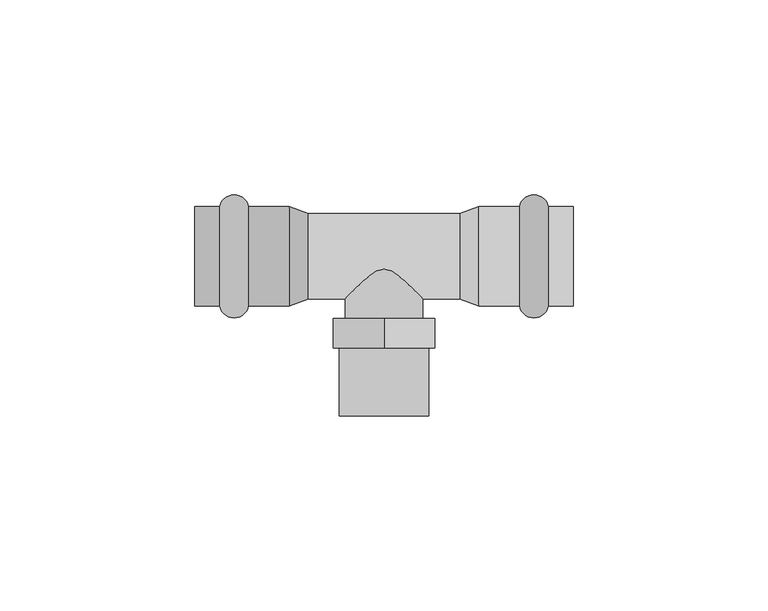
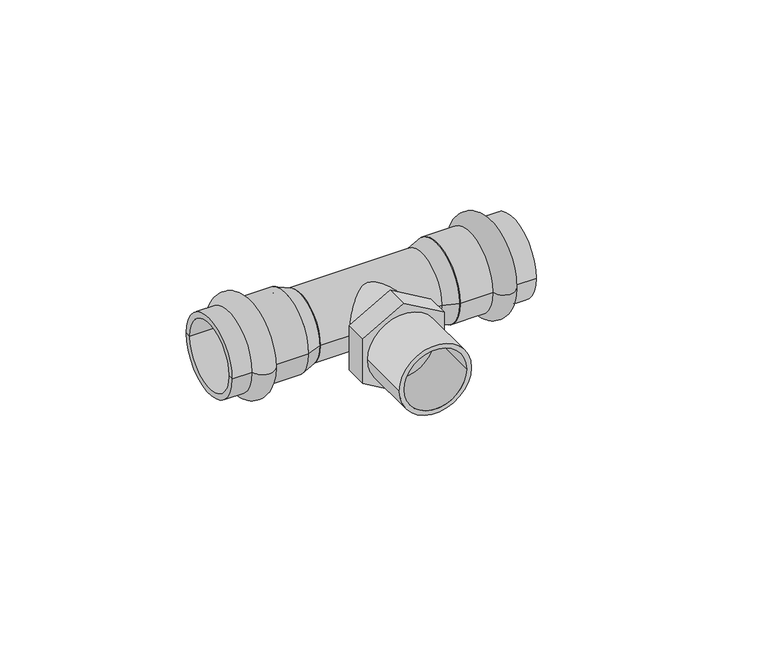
"""IFC4 building model written with IfcOpenShell, lengths in millimetres: pipe fitting geometry, VALTEC_VTi.933.I_Тройник с переходом на наружную  резьбу нержавеющая сталь : VTi.933.I."""

from ifc_helpers import new_model, si_unit, point, frame, origin, origin_2d, place, context, project, spatial, polyline, circle_curve, ellipse_curve, trimmed, segment, composite_curve, outline, extrude, source, transform, mapped, element, save
from ifc_brep_helpers import plane_surface, cylinder_surface, revolved_surface, advanced_brep


def pipe_fitting_601ff378(model_context):
    return source(origin(), model_context, "Body", "SolidModel", [
        advanced_brep(
        [(42.1242346, 12.8, 0.0), (42.1242346, -12.8, 0.0), (34.7757654, -12.8, 0.0), (34.7757654, 12.8, 0.0), (48.5, 12.8, 0.0), (48.5, -12.8, 0.0), (48.5, 11.0, 0.0), (48.5, -11.0, 0.0), (24.25, 11.0, 0.0), (24.25, -11.0, 0.0), (24.25, 12.8, 0.0), (24.25, -12.8, 0.0)],
        [
            (0, 1, circle_curve(frame((42.1242346, 0.0, 0.0), z_axis=(-1.0, 0.0, 0.0), x_axis=(0.0, -1.0, 0.0)), 12.8)),
            (1, 2, circle_curve(frame((38.45, -12.05, 0.0), z_axis=(0.0, 0.0, -1.0), x_axis=(-1.0, 0.0, 0.0)), 3.75)),
            (2, 3, circle_curve(frame((34.7757654, 0.0, 0.0), z_axis=(1.0, 0.0, 0.0), x_axis=(0.0, -1.0, 0.0)), 12.8)),
            (3, 0, circle_curve(frame((38.45, 12.05, 0.0), z_axis=(0.0, 0.0, -1.0), x_axis=(-1.0, 0.0, 0.0)), 3.75)),
            (1, 0, circle_curve(frame((42.1242346, 0.0, 0.0), z_axis=(-1.0, 0.0, 0.0), x_axis=(0.0, -1.0, 0.0)), 12.8)),
            (3, 2, circle_curve(frame((34.7757654, 0.0, 0.0), z_axis=(1.0, 0.0, 0.0), x_axis=(0.0, -1.0, 0.0)), 12.8)),
            (4, 5, circle_curve(frame((48.5, 0.0, 0.0), z_axis=(-1.0, 0.0, 0.0), x_axis=(0.0, -1.0, 0.0)), 12.8)),
            (5, 1),
            (0, 4),
            (5, 4, circle_curve(frame((48.5, 0.0, 0.0), z_axis=(-1.0, 0.0, 0.0), x_axis=(0.0, -1.0, 0.0)), 12.8)),
            (6, 7, circle_curve(frame((48.5, 0.0, 0.0), z_axis=(-1.0, 0.0, 0.0), x_axis=(0.0, -1.0, 0.0)), 11.0)),
            (7, 5),
            (4, 6),
            (7, 6, circle_curve(frame((48.5, 0.0, 0.0), z_axis=(-1.0, 0.0, 0.0), x_axis=(0.0, -1.0, 0.0)), 11.0)),
            (8, 9, circle_curve(frame((24.25, 0.0, 0.0), z_axis=(-1.0, 0.0, 0.0), x_axis=(0.0, -1.0, 0.0)), 11.0)),
            (9, 7),
            (6, 8),
            (9, 8, circle_curve(frame((24.25, 0.0, 0.0), z_axis=(-1.0, 0.0, 0.0), x_axis=(0.0, -1.0, 0.0)), 11.0)),
            (10, 11, circle_curve(frame((24.25, 0.0, 0.0), z_axis=(-1.0, 0.0, 0.0), x_axis=(0.0, -1.0, 0.0)), 12.8)),
            (11, 9),
            (8, 10),
            (11, 10, circle_curve(frame((24.25, 0.0, 0.0), z_axis=(-1.0, 0.0, 0.0), x_axis=(0.0, -1.0, 0.0)), 12.8)),
            (2, 11),
            (10, 3),
        ],
        [
            revolved_surface(trimmed(ellipse_curve(frame((38.45, -12.05, 0.0), z_axis=(0.0, 0.0, 1.0), x_axis=(-1.0, 0.0, 0.0)), 3.75, 3.75), [point((34.7757654, -12.8, 0.0))], [point((42.1242346, -12.8, 0.0))], True, "CARTESIAN"), (52.0364426, 0.0, 0.0), (1.0, 0.0, 0.0)),
            cylinder_surface(frame((52.0364426, 0.0, 0.0), z_axis=(1.0, 0.0, 0.0), x_axis=(0.0, -1.0, 0.0)), 12.8),
            plane_surface(frame((48.5, 0.0, 0.0), z_axis=(1.0, 0.0, 0.0), x_axis=(0.0, -1.0, 0.0))),
            revolved_surface(polyline([(48.5, -11.0, 0.0), (24.25, -11.0, 0.0)]), (52.0364426, 0.0, 0.0), (1.0, 0.0, 0.0)),
            plane_surface(frame((24.25, 0.0, 0.0), z_axis=(-1.0, 0.0, 0.0), x_axis=(0.0, -1.0, 0.0))),
        ],
        [
            (0, [[1, 2, 3, 4]]),
            (0, [[5, -4, 6, -2]]),
            (1, [[7, 8, -1, 9]]),
            (1, [[10, -9, -5, -8]]),
            (2, [[11, 12, -7, 13]]),
            (2, [[14, -13, -10, -12]]),
            (3, [[15, 16, -11, 17]]),
            (3, [[18, -17, -14, -16]]),
            (4, [[19, 20, -15, 21]]),
            (4, [[22, -21, -18, -20]]),
            (1, [[-3, 23, -19, 24]]),
            (1, [[-6, -24, -22, -23]]),
        ],
    ),
        advanced_brep(
        [(-42.1242346, -12.8, 0.0), (-42.1242346, 12.8, 0.0), (-34.7757654, 12.8, 0.0), (-34.7757654, -12.8, 0.0), (-48.5, -12.8, 0.0), (-48.5, 12.8, 0.0), (-48.5, -11.0, 0.0), (-48.5, 11.0, 0.0), (-24.25, -11.0, 0.0), (-24.25, 11.0, 0.0), (-24.25, -12.8, 0.0), (-24.25, 12.8, 0.0)],
        [
            (0, 1, circle_curve(frame((-42.1242346, 0.0, 0.0), z_axis=(1.0, 0.0, 0.0), x_axis=(0.0, 1.0, 0.0)), 12.8)),
            (1, 2, circle_curve(frame((-38.45, 12.05, 0.0), z_axis=(0.0, 0.0, -1.0), x_axis=(1.0, 0.0, 0.0)), 3.75)),
            (2, 3, circle_curve(frame((-34.7757654, 0.0, 0.0), z_axis=(-1.0, 0.0, 0.0), x_axis=(0.0, 1.0, 0.0)), 12.8)),
            (3, 0, circle_curve(frame((-38.45, -12.05, 0.0), z_axis=(0.0, 0.0, -1.0), x_axis=(1.0, 0.0, 0.0)), 3.75)),
            (1, 0, circle_curve(frame((-42.1242346, 0.0, 0.0), z_axis=(1.0, 0.0, 0.0), x_axis=(0.0, 1.0, 0.0)), 12.8)),
            (3, 2, circle_curve(frame((-34.7757654, 0.0, 0.0), z_axis=(-1.0, 0.0, 0.0), x_axis=(0.0, 1.0, 0.0)), 12.8)),
            (4, 5, circle_curve(frame((-48.5, 0.0, 0.0), z_axis=(1.0, 0.0, 0.0), x_axis=(0.0, 1.0, 0.0)), 12.8)),
            (5, 1),
            (0, 4),
            (5, 4, circle_curve(frame((-48.5, 0.0, 0.0), z_axis=(1.0, 0.0, 0.0), x_axis=(0.0, 1.0, 0.0)), 12.8)),
            (6, 7, circle_curve(frame((-48.5, 0.0, 0.0), z_axis=(1.0, 0.0, 0.0), x_axis=(0.0, 1.0, 0.0)), 11.0)),
            (7, 5),
            (4, 6),
            (7, 6, circle_curve(frame((-48.5, 0.0, 0.0), z_axis=(1.0, 0.0, 0.0), x_axis=(0.0, 1.0, 0.0)), 11.0)),
            (8, 9, circle_curve(frame((-24.25, 0.0, 0.0), z_axis=(1.0, 0.0, 0.0), x_axis=(0.0, 1.0, 0.0)), 11.0)),
            (9, 7),
            (6, 8),
            (9, 8, circle_curve(frame((-24.25, 0.0, 0.0), z_axis=(1.0, 0.0, 0.0), x_axis=(0.0, 1.0, 0.0)), 11.0)),
            (10, 11, circle_curve(frame((-24.25, 0.0, 0.0), z_axis=(1.0, 0.0, 0.0), x_axis=(0.0, 1.0, 0.0)), 12.8)),
            (11, 9),
            (8, 10),
            (11, 10, circle_curve(frame((-24.25, 0.0, 0.0), z_axis=(1.0, 0.0, 0.0), x_axis=(0.0, 1.0, 0.0)), 12.8)),
            (2, 11),
            (10, 3),
        ],
        [
            revolved_surface(trimmed(ellipse_curve(frame((-38.45, 12.05, 0.0), z_axis=(0.0, 0.0, 1.0), x_axis=(1.0, 0.0, 0.0)), 3.75, 3.75), [point((-34.7757654, 12.8, 0.0))], [point((-42.1242346, 12.8, 0.0))], True, "CARTESIAN"), (-52.0364426, 0.0, 0.0), (-1.0, 0.0, 0.0)),
            cylinder_surface(frame((-52.0364426, 0.0, 0.0), z_axis=(-1.0, 0.0, 0.0), x_axis=(0.0, 1.0, 0.0)), 12.8),
            plane_surface(frame((-48.5, 0.0, 0.0), z_axis=(-1.0, 0.0, 0.0), x_axis=(0.0, 1.0, 0.0))),
            revolved_surface(polyline([(-48.5, 11.0, 0.0), (-24.25, 11.0, 0.0)]), (-52.0364426, 0.0, 0.0), (-1.0, 0.0, 0.0)),
            plane_surface(frame((-24.25, 0.0, 0.0), z_axis=(1.0, 0.0, 0.0), x_axis=(0.0, 1.0, 0.0))),
        ],
        [
            (0, [[1, 2, 3, 4]]),
            (0, [[5, -4, 6, -2]]),
            (1, [[7, 8, -1, 9]]),
            (1, [[10, -9, -5, -8]]),
            (2, [[11, 12, -7, 13]]),
            (2, [[14, -13, -10, -12]]),
            (3, [[15, 16, -11, 17]]),
            (3, [[18, -17, -14, -16]]),
            (4, [[19, 20, -15, 21]]),
            (4, [[22, -21, -18, -20]]),
            (1, [[-3, 23, -19, 24]]),
            (1, [[-6, -24, -22, -23]]),
        ],
    ),
        extrude(outline(composite_curve([segment(trimmed(circle_curve(origin_2d(), 11.5), [point((0.0, -11.5))], [point((0.0, 11.5))], False, "CARTESIAN"), True, "CONTINUOUS"), segment(trimmed(circle_curve(origin_2d(), 11.5), [point((0.0, 11.5))], [point((0.0, -11.5))], False, "CARTESIAN"), True, "CONTINUOUS")], self_intersect=False), holes=[composite_curve([segment(trimmed(circle_curve(origin_2d(), 10.0), [point((0.0, -10.0))], [point((0.0, 10.0))], True, "CARTESIAN"), True, "CONTINUOUS"), segment(trimmed(circle_curve(origin_2d(), 10.0), [point((0.0, 10.0))], [point((0.0, -10.0))], True, "CARTESIAN"), True, "CONTINUOUS")], self_intersect=False)]), frame((0.0, -41.0, 0.0), z_axis=(0.0, 1.0, 0.0), x_axis=(0.0, 0.0, 1.0)), (0.0, 0.0, 1.0), 17.5),
        extrude(outline(polyline([(15.011107, 0.0), (7.5055535, -13.0), (-7.5055535, -13.0), (-15.011107, 0.0), (-7.5055535, 13.0), (7.5055535, 13.0), (15.011107, 0.0)]), holes=[composite_curve([segment(trimmed(circle_curve(origin_2d(), 10.0), [point((0.0, -10.0))], [point((0.0, 10.0))], True, "CARTESIAN"), True, "CONTINUOUS"), segment(trimmed(circle_curve(origin_2d(), 10.0), [point((0.0, 10.0))], [point((0.0, -10.0))], True, "CARTESIAN"), True, "CONTINUOUS")], self_intersect=False)]), frame((0.0, -23.5, 0.0), z_axis=(0.0, 1.0, 0.0), x_axis=(0.0, 0.0, 1.0)), (0.0, 0.0, 1.0), 7.5),
        extrude(outline(composite_curve([segment(trimmed(circle_curve(origin_2d(), 10.0), [point((0.0, -10.0))], [point((0.0, 10.0))], False, "CARTESIAN"), True, "CONTINUOUS"), segment(trimmed(circle_curve(origin_2d(), 10.0), [point((0.0, 10.0))], [point((0.0, -10.0))], False, "CARTESIAN"), True, "CONTINUOUS")], self_intersect=False)), frame((0.0, -16.0, 0.0), z_axis=(0.0, 1.0, 0.0), x_axis=(0.0, 0.0, 1.0)), (0.0, 0.0, 1.0), 16.0),
        extrude(outline(composite_curve([segment(trimmed(circle_curve(origin_2d(), 11.0), [point((-11.0, 0.0))], [point((11.0, 0.0))], False, "CARTESIAN"), True, "CONTINUOUS"), segment(trimmed(circle_curve(origin_2d(), 11.0), [point((11.0, 0.0))], [point((-11.0, 0.0))], False, "CARTESIAN"), True, "CONTINUOUS")], self_intersect=False)), frame((-19.4, 0.0, 0.0), z_axis=(1.0, 0.0, 0.0), x_axis=(0.0, 1.0, 0.0)), (0.0, 0.0, 1.0), 38.8),
        advanced_brep(
        [(24.25, -12.8, 0.0), (24.25, 12.8, 0.0), (19.4, -11.0, 0.0), (19.4, 11.0, 0.0)],
        [
            (0, 1, circle_curve(frame((24.25, 0.0, 0.0), z_axis=(1.0, 0.0, 0.0), x_axis=(0.0, -1.0, 0.0)), 12.8)),
            (1, 0, circle_curve(frame((24.25, 0.0, 0.0), z_axis=(1.0, 0.0, 0.0), x_axis=(0.0, 1.0, 0.0)), 12.8)),
            (2, 3, circle_curve(frame((19.4, 0.0, 0.0), z_axis=(-1.0, 0.0, 0.0), x_axis=(0.0, 1.0, 0.0)), 11.0)),
            (3, 2, circle_curve(frame((19.4, 0.0, 0.0), z_axis=(-1.0, 0.0, 0.0), x_axis=(0.0, -1.0, 0.0)), 11.0)),
            (3, 1),
            (0, 2),
        ],
        [
            plane_surface(frame((24.25, 0.0, 0.0), z_axis=(1.0, 0.0, 0.0), x_axis=(0.0, 0.0, 1.0))),
            plane_surface(frame((19.4, 0.0, 0.0), z_axis=(-1.0, 0.0, 0.0), x_axis=(0.0, 0.0, 1.0))),
            revolved_surface(polyline([(19.4, 11.000000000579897, 0.0), (24.25, 12.8, 0.0)]), (-10.2388889, 0.0, 0.0), (1.0, 0.0, 0.0)),
            revolved_surface(polyline([(19.4, -11.000000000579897, 0.0), (24.25, -12.8, 0.0)]), (-10.2388889, 0.0, 0.0), (1.0, 0.0, 0.0)),
        ],
        [
            (0, [[1, 2]]),
            (1, [[3, 4]]),
            (2, [[-4, 5, -1, 6]]),
            (3, [[-3, -6, -2, -5]]),
        ],
    ),
        advanced_brep(
        [(-24.25, -12.8, 0.0), (-24.25, 12.8, 0.0), (-19.4, -11.0, 0.0), (-19.4, 11.0, 0.0)],
        [
            (0, 1, circle_curve(frame((-24.25, 0.0, 0.0), z_axis=(-1.0, 0.0, 0.0), x_axis=(0.0, -1.0, 0.0)), 12.8)),
            (1, 0, circle_curve(frame((-24.25, 0.0, 0.0), z_axis=(-1.0, 0.0, 0.0), x_axis=(0.0, 1.0, 0.0)), 12.8)),
            (2, 3, circle_curve(frame((-19.4, 0.0, 0.0), z_axis=(1.0, 0.0, 0.0), x_axis=(0.0, 1.0, 0.0)), 11.0)),
            (3, 2, circle_curve(frame((-19.4, 0.0, 0.0), z_axis=(1.0, 0.0, 0.0), x_axis=(0.0, -1.0, 0.0)), 11.0)),
            (2, 0),
            (1, 3),
        ],
        [
            plane_surface(frame((-24.25, 0.0, 0.0), z_axis=(-1.0, 0.0, 0.0), x_axis=(0.0, 0.0, -1.0))),
            plane_surface(frame((-19.4, 0.0, 0.0), z_axis=(1.0, 0.0, 0.0), x_axis=(0.0, 0.0, -1.0))),
            revolved_surface(polyline([(-19.4, -11.000000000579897, 0.0), (-24.25, -12.8, 0.0)]), (10.2388889, 0.0, 0.0), (-1.0, 0.0, 0.0)),
            revolved_surface(polyline([(-19.4, 11.000000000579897, 0.0), (-24.25, 12.8, 0.0)]), (10.2388889, 0.0, 0.0), (-1.0, 0.0, 0.0)),
        ],
        [
            (0, [[1, 2]]),
            (1, [[3, 4]]),
            (2, [[-3, 5, -2, 6]]),
            (3, [[-4, -6, -1, -5]]),
        ],
    ),
    ])


if __name__ == "__main__":
    model = new_model("IFC4")
    model_context = context("Model", 3, world=origin())
    ifc_project = project(units=[si_unit("LENGTHUNIT", "METRE", prefix="MILLI")], contexts=[model_context])
    site = spatial("IfcSite", under=ifc_project)
    building = spatial("IfcBuilding", under=site)
    placement = place(None, origin())
    pipe_fitting_shape = pipe_fitting_601ff378(model_context)
    element("IfcPipeFitting", 1, ObjectType="VALTEC_VTi.933.I_Тройник с переходом на наружную  резьбу нержавеющая сталь : VTi.933.I", at=placement, inside=building, context=model_context, shape_type="MappedRepresentation", body=[
        mapped(pipe_fitting_shape, transform((0.0, 0.0, 0.0), x_axis=(1.0, 0.0, 0.0), y_axis=(0.0, 1.0, 0.0), z_axis=(0.0, 0.0, 1.0))),
    ])
    save(model, "model.ifc")
